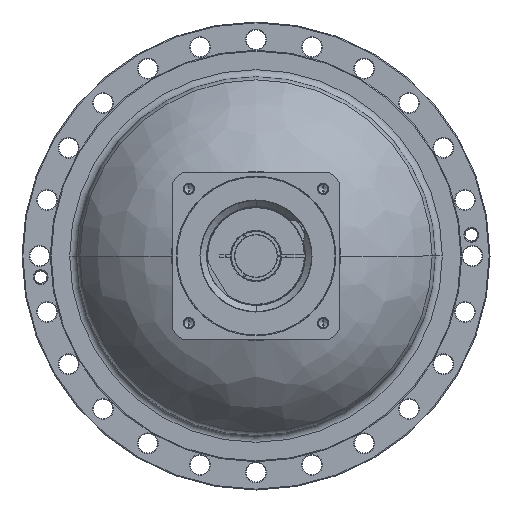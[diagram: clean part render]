
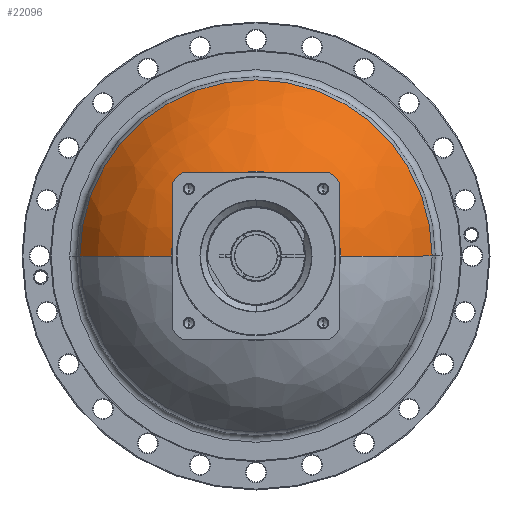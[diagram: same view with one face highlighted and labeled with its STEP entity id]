
A CAD part, left-side view. The second image highlights one B-rep face of the part: STEP entity #22096.
In plain terms, the highlighted free-form (B-spline) face has degree [3, 3] with [7, 4] control points.
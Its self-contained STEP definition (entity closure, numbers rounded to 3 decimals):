
#21604=CARTESIAN_POINT('',(-12.041,0.,0.));
#21605=DIRECTION('',(-1.,0.,0.));
#21606=DIRECTION('',(0.,-1.,0.));
#21607=AXIS2_PLACEMENT_3D('',#21604,#21605,#21606);
#21609=CARTESIAN_POINT('',(-97.122,0.,0.));
#21610=DIRECTION('',(1.,0.,0.));
#21611=DIRECTION('',(0.,1.,0.));
#21612=AXIS2_PLACEMENT_3D('',#21609,#21610,#21611);
#21619=CARTESIAN_POINT('',(-200.149,28.006,0.));
#21620=DIRECTION('',(0.,0.,-1.));
#21621=DIRECTION('',(0.515,0.857,0.));
#21622=AXIS2_PLACEMENT_3D('',#21619,#21620,#21621);
#21629=CARTESIAN_POINT('',(-200.149,-28.006,0.));
#21630=DIRECTION('',(0.,0.,1.));
#21631=DIRECTION('',(0.515,-0.857,0.));
#21632=AXIS2_PLACEMENT_3D('',#21629,#21630,#21631);
#21866=CARTESIAN_POINT('',(-97.122,199.428,
0.));
#21867=CARTESIAN_POINT('',(-97.122,-199.428,0.));
#21868=VERTEX_POINT('',#21866);
#21869=VERTEX_POINT('',#21867);
#21878=CARTESIAN_POINT('',(-12.041,95.943,
0.));
#21879=CARTESIAN_POINT('',(-12.041,-95.943,
0.));
#21880=VERTEX_POINT('',#21878);
#21881=VERTEX_POINT('',#21879);
#22058=CARTESIAN_POINT('',(-99.473,200.423,
-12.61));
#22059=CARTESIAN_POINT('',(-57.668,176.116,
-11.08));
#22060=CARTESIAN_POINT('',(-26.942,138.818,
-8.734));
#22061=CARTESIAN_POINT('',(-11.131,93.183,
-5.863));
#22062=CARTESIAN_POINT('',(-99.473,208.183,
110.73));
#22063=CARTESIAN_POINT('',(-57.668,182.935,
97.301));
#22064=CARTESIAN_POINT('',(-26.942,144.192,
76.694));
#22065=CARTESIAN_POINT('',(-11.131,96.79,
51.482));
#22066=CARTESIAN_POINT('',(-99.473,123.584,
200.819));
#22067=CARTESIAN_POINT('',(-57.668,108.596,
176.465));
#22068=CARTESIAN_POINT('',(-26.942,85.597,
139.092));
#22069=CARTESIAN_POINT('',(-11.131,57.458,
93.367));
#22070=CARTESIAN_POINT('',(-99.473,0.,200.819));
#22071=CARTESIAN_POINT('',(-57.668,0.,176.465));
#22072=CARTESIAN_POINT('',(-26.942,0.,
139.092));
#22073=CARTESIAN_POINT('',(-11.131,0.,
93.367));
#22074=CARTESIAN_POINT('',(-99.473,-123.584,
200.819));
#22075=CARTESIAN_POINT('',(-57.668,-108.596,
176.465));
#22076=CARTESIAN_POINT('',(-26.942,-85.597,
139.092));
#22077=CARTESIAN_POINT('',(-11.131,-57.458,
93.367));
#22078=CARTESIAN_POINT('',(-99.473,-208.183,
110.73));
#22079=CARTESIAN_POINT('',(-57.668,-182.935,
97.301));
#22080=CARTESIAN_POINT('',(-26.942,-144.192,
76.694));
#22081=CARTESIAN_POINT('',(-11.131,-96.79,
51.482));
#22082=CARTESIAN_POINT('',(-99.473,-200.423,
-12.61));
#22083=CARTESIAN_POINT('',(-57.668,-176.116,
-11.08));
#22084=CARTESIAN_POINT('',(-26.942,-138.818,
-8.734));
#22085=CARTESIAN_POINT('',(-11.131,-93.183,
-5.863));
#22086=(BOUNDED_SURFACE()B_SPLINE_SURFACE(3,3,((#22058,#22059,#22060,#22061),(
#22062,#22063,#22064,#22065),(#22066,#22067,#22068,#22069),(#22070,#22071,
#22072,#22073),(#22074,#22075,#22076,#22077),(#22078,#22079,#22080,#22081),(
#22082,#22083,#22084,#22085)),.UNSPECIFIED.,.F.,.F.,.F.)B_SPLINE_SURFACE_WITH_KNOTS((4,3,4),(4,4),(0.,1.,2.),(0.,1.),.UNSPECIFIED.)GEOMETRIC_REPRESENTATION_ITEM()RATIONAL_B_SPLINE_SURFACE(((1.226,1.175,
1.175,1.226),(0.968,0.928,
0.928,0.968),(0.968,0.928,
0.928,0.968),(1.226,1.175,
1.175,1.226),(0.968,0.928,
0.928,0.968),(0.968,0.928,
0.928,0.968),(1.226,1.175,
1.175,1.226)))REPRESENTATION_ITEM('')SURFACE());
#22087=ORIENTED_EDGE('',*,*,#22052,.F.);
#22089=ORIENTED_EDGE('',*,*,#22088,.F.);
#22091=ORIENTED_EDGE('',*,*,#22090,.F.);
#22093=ORIENTED_EDGE('',*,*,#22092,.T.);
#22094=EDGE_LOOP('',(#22087,#22089,#22091,#22093));
#22095=FACE_OUTER_BOUND('',#22094,.F.);
#22096=ADVANCED_FACE('',(#22095),#22086,.T.);
#21608=CIRCLE('',#21607,95.943);
#21613=CIRCLE('',#21612,199.428);
#21623=CIRCLE('',#21622,200.);
#21633=CIRCLE('',#21632,200.);
#22052=EDGE_CURVE('',#21881,#21880,#21608,.T.);
#22088=EDGE_CURVE('',#21869,#21881,#21633,.T.);
#22090=EDGE_CURVE('',#21868,#21869,#21613,.T.);
#22092=EDGE_CURVE('',#21868,#21880,#21623,.T.);
